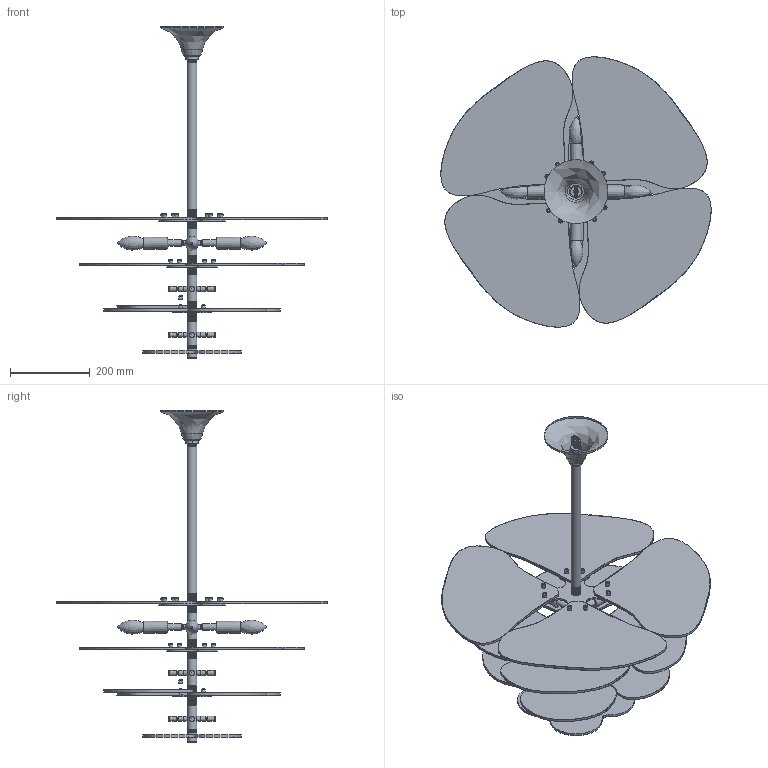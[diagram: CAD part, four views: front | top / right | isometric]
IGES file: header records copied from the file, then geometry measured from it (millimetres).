
Global section: file name: Z:\; native system: Rhinoceros ( Nov 10 2025 ); preprocessor: Trout Lake IGES 012 Nov 10 2025; date: 260807.072359; units: millimetre
Bounding box: 677.67 x 677.67 x 832.35 mm (x, y, z)
Surface area: 1833078.2 mm2 (no closed solid volume)
Topology: 0 solids, 0 shells, 858 faces, 4067 edges, 3472 vertices
Faces by surface type: bspline 858
